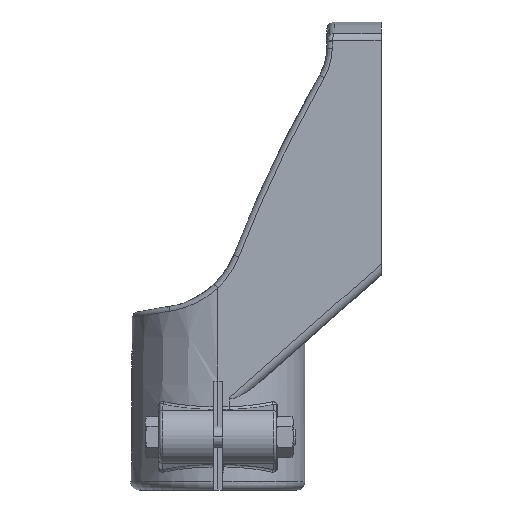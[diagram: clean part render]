
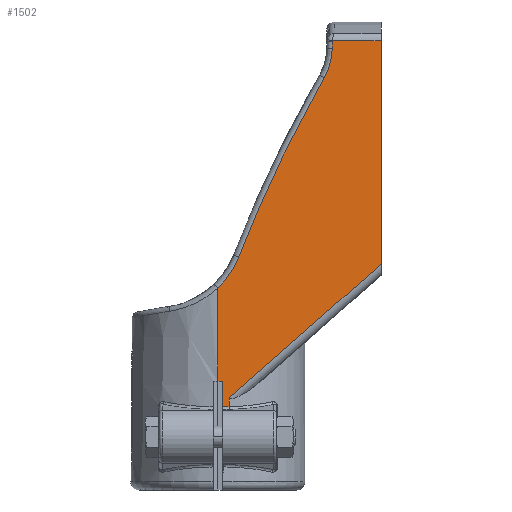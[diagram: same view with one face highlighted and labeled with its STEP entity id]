
A CAD part, left-side view. The second image highlights one B-rep face of the part: STEP entity #1502.
In plain terms, the highlighted planar face has unit normal (-1, 0, 0.009).
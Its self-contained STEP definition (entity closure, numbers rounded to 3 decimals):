
#339=CARTESIAN_POINT('Vertex',(-30.583,18.,162.386)) ;
#342=CARTESIAN_POINT('Line Origine',(-31.25,18.,85.998)) ;
#346=CARTESIAN_POINT('Vertex',(-30.563,18.,164.717)) ;
#1090=CARTESIAN_POINT('Control Point',(-30.56,17.955,165.029)) ;
#1091=CARTESIAN_POINT('Control Point',(-30.56,17.973,164.968)) ;
#1092=CARTESIAN_POINT('Control Point',(-30.561,17.986,164.906)) ;
#1093=CARTESIAN_POINT('Control Point',(-30.561,17.995,164.843)) ;
#1094=CARTESIAN_POINT('Control Point',(-30.562,18.,164.78)) ;
#1095=CARTESIAN_POINT('Control Point',(-30.563,18.,164.717)) ;
#1096=CARTESIAN_POINT('Vertex',(-30.56,17.955,165.029)) ;
#1369=CARTESIAN_POINT('Vertex',(-30.678,20.9,151.468)) ;
#1373=CARTESIAN_POINT('Control Point',(-30.678,20.9,151.468)) ;
#1374=CARTESIAN_POINT('Control Point',(-30.676,20.741,151.746)) ;
#1375=CARTESIAN_POINT('Control Point',(-30.673,20.588,152.027)) ;
#1376=CARTESIAN_POINT('Control Point',(-30.671,20.439,152.31)) ;
#1377=CARTESIAN_POINT('Control Point',(-30.653,19.434,154.315)) ;
#1378=CARTESIAN_POINT('Control Point',(-30.635,18.687,156.442)) ;
#1379=CARTESIAN_POINT('Control Point',(-30.618,18.249,158.329)) ;
#1380=CARTESIAN_POINT('Control Point',(-30.601,18.015,160.292)) ;
#1381=CARTESIAN_POINT('Control Point',(-30.584,18.,162.257)) ;
#1382=CARTESIAN_POINT('Control Point',(-30.584,18.,162.3)) ;
#1383=CARTESIAN_POINT('Control Point',(-30.583,18.,162.343)) ;
#1384=CARTESIAN_POINT('Control Point',(-30.583,18.,162.386)) ;
#1393=CARTESIAN_POINT('Axis2P3D Location',(-32.,0.,0.)) ;
#1399=CARTESIAN_POINT('Control Point',(-31.733,55.877,30.56)) ;
#1400=CARTESIAN_POINT('Control Point',(-31.733,55.877,30.556)) ;
#1401=CARTESIAN_POINT('Control Point',(-31.733,55.878,30.553)) ;
#1402=CARTESIAN_POINT('Control Point',(-31.733,55.878,30.549)) ;
#1403=CARTESIAN_POINT('Vertex',(-31.733,55.878,30.549)) ;
#1405=CARTESIAN_POINT('Vertex',(-31.733,55.877,30.56)) ;
#1409=CARTESIAN_POINT('Control Point',(-31.733,55.877,30.56)) ;
#1410=CARTESIAN_POINT('Control Point',(-31.73,55.85,30.968)) ;
#1411=CARTESIAN_POINT('Control Point',(-31.726,55.823,31.377)) ;
#1412=CARTESIAN_POINT('Control Point',(-31.723,55.796,31.786)) ;
#1413=CARTESIAN_POINT('Vertex',(-31.723,55.796,31.786)) ;
#1417=CARTESIAN_POINT('Control Point',(-31.723,55.796,31.786)) ;
#1418=CARTESIAN_POINT('Control Point',(-31.716,55.747,32.518)) ;
#1419=CARTESIAN_POINT('Control Point',(-31.71,55.7,33.25)) ;
#1420=CARTESIAN_POINT('Control Point',(-31.703,55.654,33.982)) ;
#1421=CARTESIAN_POINT('Vertex',(-31.703,55.654,33.982)) ;
#1425=CARTESIAN_POINT('Control Point',(-31.703,55.654,33.982)) ;
#1426=CARTESIAN_POINT('Control Point',(-31.275,0.,83.025)) ;
#1427=CARTESIAN_POINT('Vertex',(-31.275,0.,83.025)) ;
#1430=CARTESIAN_POINT('Line Origine',(-31.249,0.,86.)) ;
#1434=CARTESIAN_POINT('Vertex',(-30.56,0.,165.029)) ;
#1437=CARTESIAN_POINT('Line Origine',(-30.56,20.8,165.029)) ;
#1443=CARTESIAN_POINT('Control Point',(-30.678,20.9,151.468)) ;
#1444=CARTESIAN_POINT('Control Point',(-30.863,32.995,130.309)) ;
#1445=CARTESIAN_POINT('Control Point',(-31.055,43.534,108.261)) ;
#1446=CARTESIAN_POINT('Control Point',(-31.253,52.404,85.561)) ;
#1447=CARTESIAN_POINT('Vertex',(-31.253,52.404,85.561)) ;
#1451=CARTESIAN_POINT('Control Point',(-31.353,60.,74.169)) ;
#1452=CARTESIAN_POINT('Control Point',(-31.332,57.516,76.563)) ;
#1453=CARTESIAN_POINT('Control Point',(-31.308,55.377,79.315)) ;
#1454=CARTESIAN_POINT('Control Point',(-31.281,53.659,82.348)) ;
#1455=CARTESIAN_POINT('Control Point',(-31.253,52.404,85.561)) ;
#1456=CARTESIAN_POINT('Vertex',(-31.353,60.,74.169)) ;
#1459=CARTESIAN_POINT('Line Origine',(-31.249,60.,86.)) ;
#1463=CARTESIAN_POINT('Vertex',(-31.651,60.,40.)) ;
#1466=CARTESIAN_POINT('Line Origine',(-31.651,20.8,40.)) ;
#1470=CARTESIAN_POINT('Vertex',(-31.651,58.25,40.)) ;
#1473=CARTESIAN_POINT('Line Origine',(-31.249,58.25,86.)) ;
#1477=CARTESIAN_POINT('Vertex',(-31.733,58.25,30.549)) ;
#1480=CARTESIAN_POINT('Line Origine',(-31.733,20.8,30.549)) ;
#343=DIRECTION('Vector Direction',(0.009,0.,1.)) ;
#1394=DIRECTION('Axis2P3D Direction',(-1.,0.,0.009)) ;
#1395=DIRECTION('Axis2P3D XDirection',(0.,1.,0.)) ;
#1431=DIRECTION('Vector Direction',(-0.009,0.,-1.)) ;
#1438=DIRECTION('Vector Direction',(0.,1.,0.)) ;
#1460=DIRECTION('Vector Direction',(-0.009,0.,-1.)) ;
#1467=DIRECTION('Vector Direction',(0.,1.,0.)) ;
#1474=DIRECTION('Vector Direction',(-0.009,0.,-1.)) ;
#1481=DIRECTION('Vector Direction',(0.,1.,0.)) ;
#1396=AXIS2_PLACEMENT_3D('Plane Axis2P3D',#1393,#1394,#1395) ;
#1486=ORIENTED_EDGE('',*,*,#1407,.T.) ;
#1487=ORIENTED_EDGE('',*,*,#1415,.T.) ;
#1488=ORIENTED_EDGE('',*,*,#1423,.F.) ;
#1489=ORIENTED_EDGE('',*,*,#1429,.F.) ;
#1490=ORIENTED_EDGE('',*,*,#1436,.F.) ;
#1491=ORIENTED_EDGE('',*,*,#1441,.F.) ;
#1492=ORIENTED_EDGE('',*,*,#1098,.F.) ;
#1493=ORIENTED_EDGE('',*,*,#348,.F.) ;
#1494=ORIENTED_EDGE('',*,*,#1385,.F.) ;
#1495=ORIENTED_EDGE('',*,*,#1449,.F.) ;
#1496=ORIENTED_EDGE('',*,*,#1458,.F.) ;
#1497=ORIENTED_EDGE('',*,*,#1465,.F.) ;
#1498=ORIENTED_EDGE('',*,*,#1472,.T.) ;
#1499=ORIENTED_EDGE('',*,*,#1479,.F.) ;
#1500=ORIENTED_EDGE('',*,*,#1484,.F.) ;
#344=VECTOR('Line Direction',#343,1.) ;
#1432=VECTOR('Line Direction',#1431,1.) ;
#1439=VECTOR('Line Direction',#1438,1.) ;
#1461=VECTOR('Line Direction',#1460,1.) ;
#1468=VECTOR('Line Direction',#1467,1.) ;
#1475=VECTOR('Line Direction',#1474,1.) ;
#1482=VECTOR('Line Direction',#1481,1.) ;
#1502=ADVANCED_FACE('PartBody',(#1501),#1397,.T.) ;
#1089=B_SPLINE_CURVE_WITH_KNOTS('',5,(#1090,#1091,#1092,#1093,#1094,#1095),.UNSPECIFIED.,.F.,.U.,(6,6),(11.527,12.49),.UNSPECIFIED.) ;
#1372=B_SPLINE_CURVE_WITH_KNOTS('',5,(#1373,#1374,#1375,#1376,#1377,#1378,#1379,#1380,#1381,#1382,#1383,#1384),.UNSPECIFIED.,.F.,.U.,(6,3,3,6),(85.689,87.852,100.838,101.13),.UNSPECIFIED.) ;
#1398=B_SPLINE_CURVE_WITH_KNOTS('',3,(#1399,#1400,#1401,#1402),.UNSPECIFIED.,.F.,.U.,(4,4),(0.,0.014),.UNSPECIFIED.) ;
#1408=B_SPLINE_CURVE_WITH_KNOTS('',3,(#1409,#1410,#1411,#1412),.UNSPECIFIED.,.F.,.U.,(4,4),(44.404,46.143),.UNSPECIFIED.) ;
#1416=B_SPLINE_CURVE_WITH_KNOTS('',3,(#1417,#1418,#1419,#1420),.UNSPECIFIED.,.F.,.U.,(4,4),(0.,3.111),.UNSPECIFIED.) ;
#1424=B_SPLINE_CURVE_WITH_KNOTS('',1,(#1425,#1426),.UNSPECIFIED.,.F.,.U.,(2,2),(-34.193,39.987),.UNSPECIFIED.) ;
#1442=B_SPLINE_CURVE_WITH_KNOTS('',3,(#1443,#1444,#1445,#1446),.UNSPECIFIED.,.F.,.U.,(4,4),(85.172,188.784),.UNSPECIFIED.) ;
#1450=B_SPLINE_CURVE_WITH_KNOTS('',4,(#1451,#1452,#1453,#1454,#1455),.UNSPECIFIED.,.F.,.U.,(5,5),(34.974,53.889),.UNSPECIFIED.) ;
#348=EDGE_CURVE('',#340,#347,#345,.T.) ;
#1098=EDGE_CURVE('',#347,#1097,#1089,.F.) ;
#1385=EDGE_CURVE('',#1370,#340,#1372,.T.) ;
#1407=EDGE_CURVE('',#1404,#1406,#1398,.F.) ;
#1415=EDGE_CURVE('',#1406,#1414,#1408,.T.) ;
#1423=EDGE_CURVE('',#1422,#1414,#1416,.F.) ;
#1429=EDGE_CURVE('',#1428,#1422,#1424,.F.) ;
#1436=EDGE_CURVE('',#1435,#1428,#1433,.T.) ;
#1441=EDGE_CURVE('',#1097,#1435,#1440,.F.) ;
#1449=EDGE_CURVE('',#1448,#1370,#1442,.F.) ;
#1458=EDGE_CURVE('',#1457,#1448,#1450,.T.) ;
#1465=EDGE_CURVE('',#1464,#1457,#1462,.F.) ;
#1472=EDGE_CURVE('',#1464,#1471,#1469,.F.) ;
#1479=EDGE_CURVE('',#1478,#1471,#1476,.F.) ;
#1484=EDGE_CURVE('',#1404,#1478,#1483,.T.) ;
#1485=EDGE_LOOP('',(#1486,#1487,#1488,#1489,#1490,#1491,#1492,#1493,#1494,#1495,#1496,#1497,#1498,#1499,#1500)) ;
#1501=FACE_OUTER_BOUND('',#1485,.T.) ;
#345=LINE('Line',#342,#344) ;
#1433=LINE('Line',#1430,#1432) ;
#1440=LINE('Line',#1437,#1439) ;
#1462=LINE('Line',#1459,#1461) ;
#1469=LINE('Line',#1466,#1468) ;
#1476=LINE('Line',#1473,#1475) ;
#1483=LINE('Line',#1480,#1482) ;
#1397=PLANE('',#1396) ;
#340=VERTEX_POINT('',#339) ;
#347=VERTEX_POINT('',#346) ;
#1097=VERTEX_POINT('',#1096) ;
#1370=VERTEX_POINT('',#1369) ;
#1404=VERTEX_POINT('',#1403) ;
#1406=VERTEX_POINT('',#1405) ;
#1414=VERTEX_POINT('',#1413) ;
#1422=VERTEX_POINT('',#1421) ;
#1428=VERTEX_POINT('',#1427) ;
#1435=VERTEX_POINT('',#1434) ;
#1448=VERTEX_POINT('',#1447) ;
#1457=VERTEX_POINT('',#1456) ;
#1464=VERTEX_POINT('',#1463) ;
#1471=VERTEX_POINT('',#1470) ;
#1478=VERTEX_POINT('',#1477) ;
